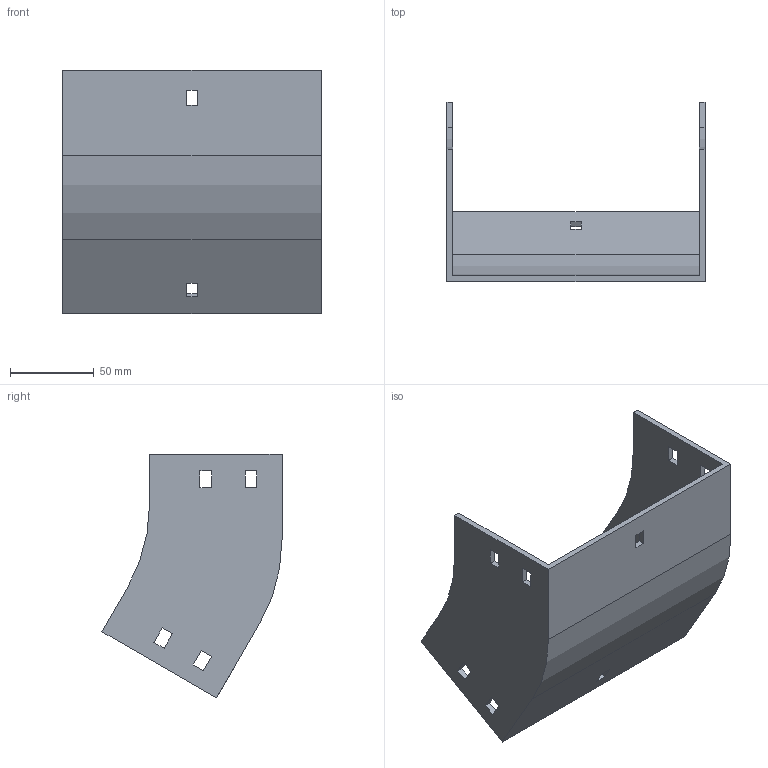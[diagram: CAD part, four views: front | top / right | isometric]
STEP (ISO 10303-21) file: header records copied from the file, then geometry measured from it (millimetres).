
FILE_DESCRIPTION (( 'STEP AP214' ), '1' );
FILE_NAME ('32F1C150.step', '2025-02-21T12:58:31', ( '' ), ( '' ), 'SwSTEP 2.0', 'SolidWorks 2023', '' );
FILE_SCHEMA (( 'AUTOMOTIVE_DESIGN' ));
Length unit declared in the file: millimetre
Products named in the file (1): 32F1C150
Bounding box: 154 x 107.4 x 145.48 mm (x, y, z)
Volume: 151271.2 mm3; surface area: 90537.6 mm2
Topology: 1 solids, 1 shells, 58 faces, 168 edges, 112 vertices
Faces by surface type: plane 54, cylinder 4
Entity records: 1943 total; most frequent: CARTESIAN_POINT 339, ORIENTED_EDGE 336, DIRECTION 294, EDGE_CURVE 168, LINE 160, VECTOR 160, VERTEX_POINT 112, EDGE_LOOP 78
